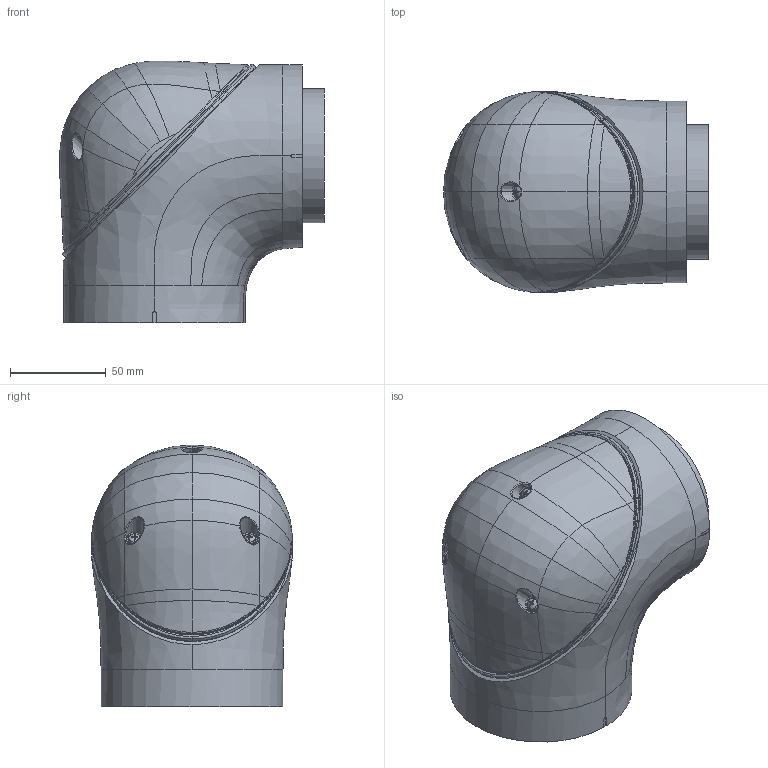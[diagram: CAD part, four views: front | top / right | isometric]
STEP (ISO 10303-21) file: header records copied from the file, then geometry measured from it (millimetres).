
FILE_DESCRIPTION(/* description */ ('AP214 STEP file'),/* implementation_level */ '2;1');
FILE_NAME(/* name */ '1300_model-c005_stp',/* time_stamp */ '2023-03-07T19:21:41+09:00',/* author */ (''),/* organization */ (''),/* preprocessor_version */ '7.2.1.0',/* originating_system */ 'Elysium Co. Ltd. STEP Translator',/* authorisation */ '');
FILE_SCHEMA (('AUTOMOTIVE_DESIGN'));
Length unit declared in the file: millimetre
Products named in the file (1): 1300_MODEL-C005
Bounding box: 138.32 x 105.08 x 136.75 mm (x, y, z)
Volume: 1223225 mm3; surface area: 68992.6 mm2
Topology: 1 solids, 1 shells, 360 faces, 881 edges, 528 vertices
Faces by surface type: bspline 172, plane 74, extrusion 46, cylinder 38, cone 12, torus 12, sphere 6
Entity records: 20956 total; most frequent: CARTESIAN_POINT 14075, ORIENTED_EDGE 1762, EDGE_CURVE 881, DIRECTION 774, VERTEX_POINT 528, B_SPLINE_CURVE_WITH_KNOTS 511, AXIS2_PLACEMENT_3D 376, EDGE_LOOP 365
